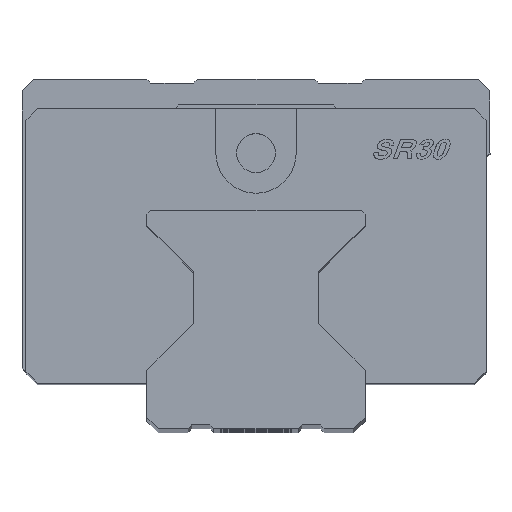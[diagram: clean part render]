
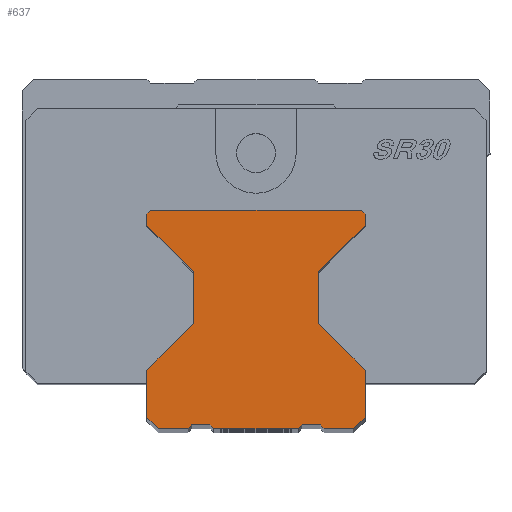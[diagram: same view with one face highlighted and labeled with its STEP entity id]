
A CAD part, top view. The second image highlights one B-rep face of the part: STEP entity #637.
In plain terms, the highlighted planar face has unit normal (0, 0, 1).
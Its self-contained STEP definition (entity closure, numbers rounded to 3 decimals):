
#412=FACE_OUTER_BOUND('',#1274,.T.);
#637=ADVANCED_FACE('',(#412),#770,.T.);
#770=PLANE('',#4936);
#1274=EDGE_LOOP('',(#3328,#3329,#3330,#3331,#3332,#3333,#3334,#3335,#3336,
#3337,#3338,#3339,#3340,#3341,#3342,#3343,#3344,#3345,#3346,#3347,#3348,
#3349,#3350,#3351));
#1637=LINE('',#8161,#2093);
#1639=LINE('',#8165,#2095);
#1641=LINE('',#8169,#2097);
#1643=LINE('',#8187,#2099);
#1645=LINE('',#8191,#2101);
#1647=LINE('',#8195,#2103);
#1649=LINE('',#8199,#2105);
#1651=LINE('',#8203,#2107);
#1653=LINE('',#8207,#2109);
#1655=LINE('',#8211,#2111);
#1657=LINE('',#8215,#2113);
#1659=LINE('',#8219,#2115);
#1661=LINE('',#8223,#2117);
#1663=LINE('',#8227,#2119);
#1665=LINE('',#8231,#2121);
#1667=LINE('',#8249,#2123);
#1669=LINE('',#8253,#2125);
#1671=LINE('',#8257,#2127);
#1673=LINE('',#8261,#2129);
#1675=LINE('',#8265,#2131);
#1677=LINE('',#8269,#2133);
#1679=LINE('',#8273,#2135);
#1681=LINE('',#8277,#2137);
#1683=LINE('',#8281,#2139);
#2093=VECTOR('',#5713,1.);
#2095=VECTOR('',#5717,1.);
#2097=VECTOR('',#5721,1.);
#2099=VECTOR('',#5739,1.);
#2101=VECTOR('',#5743,1.);
#2103=VECTOR('',#5747,1.);
#2105=VECTOR('',#5751,1.);
#2107=VECTOR('',#5755,1.);
#2109=VECTOR('',#5759,1.);
#2111=VECTOR('',#5763,1.);
#2113=VECTOR('',#5767,1.);
#2115=VECTOR('',#5771,1.);
#2117=VECTOR('',#5775,1.);
#2119=VECTOR('',#5779,1.);
#2121=VECTOR('',#5783,1.);
#2123=VECTOR('',#5801,1.);
#2125=VECTOR('',#5805,1.);
#2127=VECTOR('',#5809,1.);
#2129=VECTOR('',#5813,1.);
#2131=VECTOR('',#5817,1.);
#2133=VECTOR('',#5821,1.);
#2135=VECTOR('',#5825,1.);
#2137=VECTOR('',#5829,1.);
#2139=VECTOR('',#5833,1.);
#3328=ORIENTED_EDGE('',*,*,#4450,.T.);
#3329=ORIENTED_EDGE('',*,*,#4448,.T.);
#3330=ORIENTED_EDGE('',*,*,#4446,.T.);
#3331=ORIENTED_EDGE('',*,*,#4444,.T.);
#3332=ORIENTED_EDGE('',*,*,#4442,.T.);
#3333=ORIENTED_EDGE('',*,*,#4440,.T.);
#3334=ORIENTED_EDGE('',*,*,#4438,.T.);
#3335=ORIENTED_EDGE('',*,*,#4436,.T.);
#3336=ORIENTED_EDGE('',*,*,#4434,.T.);
#3337=ORIENTED_EDGE('',*,*,#4425,.T.);
#3338=ORIENTED_EDGE('',*,*,#4423,.T.);
#3339=ORIENTED_EDGE('',*,*,#4421,.T.);
#3340=ORIENTED_EDGE('',*,*,#4419,.T.);
#3341=ORIENTED_EDGE('',*,*,#4417,.T.);
#3342=ORIENTED_EDGE('',*,*,#4415,.T.);
#3343=ORIENTED_EDGE('',*,*,#4413,.T.);
#3344=ORIENTED_EDGE('',*,*,#4411,.T.);
#3345=ORIENTED_EDGE('',*,*,#4409,.T.);
#3346=ORIENTED_EDGE('',*,*,#4407,.T.);
#3347=ORIENTED_EDGE('',*,*,#4405,.T.);
#3348=ORIENTED_EDGE('',*,*,#4403,.T.);
#3349=ORIENTED_EDGE('',*,*,#4394,.T.);
#3350=ORIENTED_EDGE('',*,*,#4392,.T.);
#3351=ORIENTED_EDGE('',*,*,#4390,.T.);
#3786=VERTEX_POINT('',#8160);
#3787=VERTEX_POINT('',#8162);
#3788=VERTEX_POINT('',#8166);
#3789=VERTEX_POINT('',#8170);
#3797=VERTEX_POINT('',#8188);
#3798=VERTEX_POINT('',#8192);
#3799=VERTEX_POINT('',#8196);
#3800=VERTEX_POINT('',#8200);
#3801=VERTEX_POINT('',#8204);
#3802=VERTEX_POINT('',#8208);
#3803=VERTEX_POINT('',#8212);
#3804=VERTEX_POINT('',#8216);
#3805=VERTEX_POINT('',#8220);
#3806=VERTEX_POINT('',#8224);
#3807=VERTEX_POINT('',#8228);
#3808=VERTEX_POINT('',#8232);
#3816=VERTEX_POINT('',#8250);
#3817=VERTEX_POINT('',#8254);
#3818=VERTEX_POINT('',#8258);
#3819=VERTEX_POINT('',#8262);
#3820=VERTEX_POINT('',#8266);
#3821=VERTEX_POINT('',#8270);
#3822=VERTEX_POINT('',#8274);
#3823=VERTEX_POINT('',#8278);
#4390=EDGE_CURVE('',#3787,#3786,#1637,.T.);
#4392=EDGE_CURVE('',#3788,#3787,#1639,.T.);
#4394=EDGE_CURVE('',#3789,#3788,#1641,.T.);
#4403=EDGE_CURVE('',#3797,#3789,#1643,.T.);
#4405=EDGE_CURVE('',#3798,#3797,#1645,.T.);
#4407=EDGE_CURVE('',#3799,#3798,#1647,.T.);
#4409=EDGE_CURVE('',#3800,#3799,#1649,.T.);
#4411=EDGE_CURVE('',#3801,#3800,#1651,.T.);
#4413=EDGE_CURVE('',#3802,#3801,#1653,.T.);
#4415=EDGE_CURVE('',#3803,#3802,#1655,.T.);
#4417=EDGE_CURVE('',#3804,#3803,#1657,.T.);
#4419=EDGE_CURVE('',#3805,#3804,#1659,.T.);
#4421=EDGE_CURVE('',#3806,#3805,#1661,.T.);
#4423=EDGE_CURVE('',#3807,#3806,#1663,.T.);
#4425=EDGE_CURVE('',#3808,#3807,#1665,.T.);
#4434=EDGE_CURVE('',#3816,#3808,#1667,.T.);
#4436=EDGE_CURVE('',#3817,#3816,#1669,.T.);
#4438=EDGE_CURVE('',#3818,#3817,#1671,.T.);
#4440=EDGE_CURVE('',#3819,#3818,#1673,.T.);
#4442=EDGE_CURVE('',#3820,#3819,#1675,.T.);
#4444=EDGE_CURVE('',#3821,#3820,#1677,.T.);
#4446=EDGE_CURVE('',#3822,#3821,#1679,.T.);
#4448=EDGE_CURVE('',#3823,#3822,#1681,.T.);
#4450=EDGE_CURVE('',#3786,#3823,#1683,.T.);
#4936=AXIS2_PLACEMENT_3D('',#8283,#5836,#5837);
#5713=DIRECTION('',(0.,-1.,0.));
#5717=DIRECTION('',(-0.707,-0.707,0.));
#5721=DIRECTION('',(-1.,0.,0.));
#5739=DIRECTION('',(-0.707,0.707,0.));
#5743=DIRECTION('',(0.,1.,0.));
#5747=DIRECTION('',(0.707,0.707,0.));
#5751=DIRECTION('',(0.,1.,0.));
#5755=DIRECTION('',(-0.707,0.707,0.));
#5759=DIRECTION('',(0.,1.,0.));
#5763=DIRECTION('',(0.707,0.707,0.));
#5767=DIRECTION('',(1.,0.,0.));
#5771=DIRECTION('',(0.707,-0.707,0.));
#5775=DIRECTION('',(1.,0.,0.));
#5779=DIRECTION('',(0.707,0.707,0.));
#5783=DIRECTION('',(1.,0.,0.));
#5801=DIRECTION('',(0.707,-0.707,0.));
#5805=DIRECTION('',(1.,0.,0.));
#5809=DIRECTION('',(0.707,0.707,0.));
#5813=DIRECTION('',(1.,0.,0.));
#5817=DIRECTION('',(0.707,-0.707,0.));
#5821=DIRECTION('',(0.,-1.,0.));
#5825=DIRECTION('',(-0.707,-0.707,0.));
#5829=DIRECTION('',(0.,-1.,0.));
#5833=DIRECTION('',(0.707,-0.707,0.));
#5836=DIRECTION('',(0.,0.,1.));
#5837=DIRECTION('',(1.,0.,0.));
#8160=CARTESIAN_POINT('',(-14.,26.1,150.));
#8161=CARTESIAN_POINT('',(-14.,27.5,150.));
#8162=CARTESIAN_POINT('',(-14.,27.5,150.));
#8165=CARTESIAN_POINT('',(-13.5,28.,150.));
#8166=CARTESIAN_POINT('',(-13.5,28.,150.));
#8169=CARTESIAN_POINT('',(13.5,28.,150.));
#8170=CARTESIAN_POINT('',(13.5,28.,150.));
#8187=CARTESIAN_POINT('',(14.,27.5,150.));
#8188=CARTESIAN_POINT('',(14.,27.5,150.));
#8191=CARTESIAN_POINT('',(14.,26.1,150.));
#8192=CARTESIAN_POINT('',(14.,26.1,150.));
#8195=CARTESIAN_POINT('',(8.,20.1,150.));
#8196=CARTESIAN_POINT('',(8.,20.1,150.));
#8199=CARTESIAN_POINT('',(8.,13.5,150.));
#8200=CARTESIAN_POINT('',(8.,13.5,150.));
#8203=CARTESIAN_POINT('',(14.,7.5,150.));
#8204=CARTESIAN_POINT('',(14.,7.5,150.));
#8207=CARTESIAN_POINT('',(14.,1.5,150.));
#8208=CARTESIAN_POINT('',(14.,1.5,150.));
#8211=CARTESIAN_POINT('',(12.5,0.,150.));
#8212=CARTESIAN_POINT('',(12.5,0.,150.));
#8215=CARTESIAN_POINT('',(8.75,0.,150.));
#8216=CARTESIAN_POINT('',(8.75,0.,150.));
#8219=CARTESIAN_POINT('',(8.25,0.5,150.));
#8220=CARTESIAN_POINT('',(8.25,0.5,150.));
#8223=CARTESIAN_POINT('',(5.9,0.5,150.));
#8224=CARTESIAN_POINT('',(5.9,0.5,150.));
#8227=CARTESIAN_POINT('',(5.4,0.,150.));
#8228=CARTESIAN_POINT('',(5.4,0.,150.));
#8231=CARTESIAN_POINT('',(-5.4,0.,150.));
#8232=CARTESIAN_POINT('',(-5.4,0.,150.));
#8249=CARTESIAN_POINT('',(-5.9,0.5,150.));
#8250=CARTESIAN_POINT('',(-5.9,0.5,150.));
#8253=CARTESIAN_POINT('',(-8.25,0.5,150.));
#8254=CARTESIAN_POINT('',(-8.25,0.5,150.));
#8257=CARTESIAN_POINT('',(-8.75,0.,150.));
#8258=CARTESIAN_POINT('',(-8.75,0.,150.));
#8261=CARTESIAN_POINT('',(-12.5,0.,150.));
#8262=CARTESIAN_POINT('',(-12.5,0.,150.));
#8265=CARTESIAN_POINT('',(-14.,1.5,150.));
#8266=CARTESIAN_POINT('',(-14.,1.5,150.));
#8269=CARTESIAN_POINT('',(-14.,7.5,150.));
#8270=CARTESIAN_POINT('',(-14.,7.5,150.));
#8273=CARTESIAN_POINT('',(-8.,13.5,150.));
#8274=CARTESIAN_POINT('',(-8.,13.5,150.));
#8277=CARTESIAN_POINT('',(-8.,20.1,150.));
#8278=CARTESIAN_POINT('',(-8.,20.1,150.));
#8281=CARTESIAN_POINT('',(-14.,26.1,150.));
#8283=CARTESIAN_POINT('',(-15.4,-1.4,150.));
